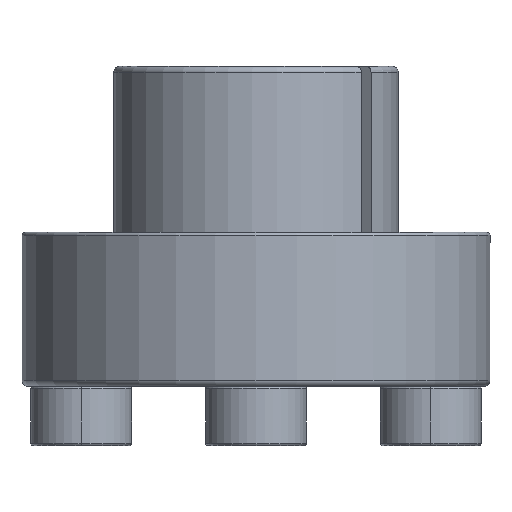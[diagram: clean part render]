
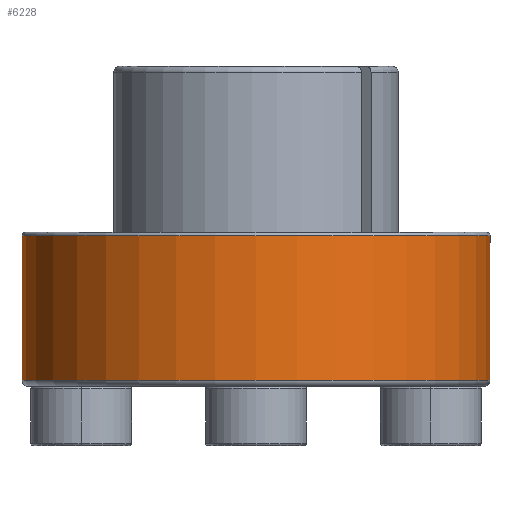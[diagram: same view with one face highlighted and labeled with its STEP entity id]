
A CAD part, front view. The second image highlights one B-rep face of the part: STEP entity #6228.
In plain terms, the highlighted cylindrical face has radius 19.75 mm (diameter 39.5 mm), a partial arc.
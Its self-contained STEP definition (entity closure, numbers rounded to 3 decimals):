
#217 = CARTESIAN_POINT ( 'NONE',  ( 0., 0., -26.5 ) ) ;
#218 = DIRECTION ( 'NONE',  ( 0., 0., -1. ) ) ;
#219 = DIRECTION ( 'NONE',  ( 1., 0., 0. ) ) ;
#952 = AXIS2_PLACEMENT_3D ( 'NONE', #1330, #1328, #1326 ) ;
#1054 = EDGE_CURVE ( 'NONE', #5004, #5014, #3889, .T. ) ;
#1326 = DIRECTION ( 'NONE',  ( 1., 0., 0. ) ) ;
#1328 = DIRECTION ( 'NONE',  ( 0., 0., -1. ) ) ;
#1330 = CARTESIAN_POINT ( 'NONE',  ( 0., 0., -27.55 ) ) ;
#1789 = AXIS2_PLACEMENT_3D ( 'NONE', #2844, #2845, #2846 ) ;
#1859 = AXIS2_PLACEMENT_3D ( 'NONE', #217, #218, #219 ) ;
#2073 = ORIENTED_EDGE ( 'NONE', *, *, #1054, .T. ) ;
#2083 = ORIENTED_EDGE ( 'NONE', *, *, #5652, .T. ) ;
#2196 = ORIENTED_EDGE ( 'NONE', *, *, #4283, .F. ) ;
#2216 = ORIENTED_EDGE ( 'NONE', *, *, #5647, .F. ) ;
#2844 = CARTESIAN_POINT ( 'NONE',  ( 0., 0., -14.3 ) ) ;
#2845 = DIRECTION ( 'NONE',  ( 0., 0., -1. ) ) ;
#2846 = DIRECTION ( 'NONE',  ( 1., 0., 0. ) ) ;
#3306 = EDGE_LOOP ( 'NONE', ( #2073, #2083, #2196, #2216 ) ) ;
#3453 = CARTESIAN_POINT ( 'NONE',  ( -19.75, 0., -26.5 ) ) ;
#3456 = CARTESIAN_POINT ( 'NONE',  ( 19.75, 0., -14.3 ) ) ;
#3463 = CARTESIAN_POINT ( 'NONE',  ( 19.75, 0., -26.5 ) ) ;
#3465 = CARTESIAN_POINT ( 'NONE',  ( -19.75, 0., -14.3 ) ) ;
#3889 = CIRCLE ( 'NONE', #1789, 19.75 ) ;
#4025 = CIRCLE ( 'NONE', #1859, 19.75 ) ;
#4094 = LINE ( 'NONE', #5925, #4096 ) ;
#4096 = VECTOR ( 'NONE', #5926, 1000. ) ;
#4100 = LINE ( 'NONE', #5944, #4103 ) ;
#4103 = VECTOR ( 'NONE', #5945, 1000. ) ;
#4283 = EDGE_CURVE ( 'NONE', #5019, #5000, #4025, .T. ) ;
#5000 = VERTEX_POINT ( 'NONE', #3453 ) ;
#5004 = VERTEX_POINT ( 'NONE', #3456 ) ;
#5014 = VERTEX_POINT ( 'NONE', #3465 ) ;
#5019 = VERTEX_POINT ( 'NONE', #3463 ) ;
#5143 = FACE_OUTER_BOUND ( 'NONE', #3306, .T. ) ;
#5156 = CYLINDRICAL_SURFACE ( 'NONE', #952, 19.75 ) ;
#5647 = EDGE_CURVE ( 'NONE', #5004, #5019, #4094, .T. ) ;
#5652 = EDGE_CURVE ( 'NONE', #5014, #5000, #4100, .T. ) ;
#5925 = CARTESIAN_POINT ( 'NONE',  ( 19.75, 0., -27.55 ) ) ;
#5926 = DIRECTION ( 'NONE',  ( 0., 0., -1. ) ) ;
#5944 = CARTESIAN_POINT ( 'NONE',  ( -19.75, 0., -27.55 ) ) ;
#5945 = DIRECTION ( 'NONE',  ( 0., 0., -1. ) ) ;
#6228 = ADVANCED_FACE ( 'NONE', ( #5143 ), #5156, .T. ) ;
